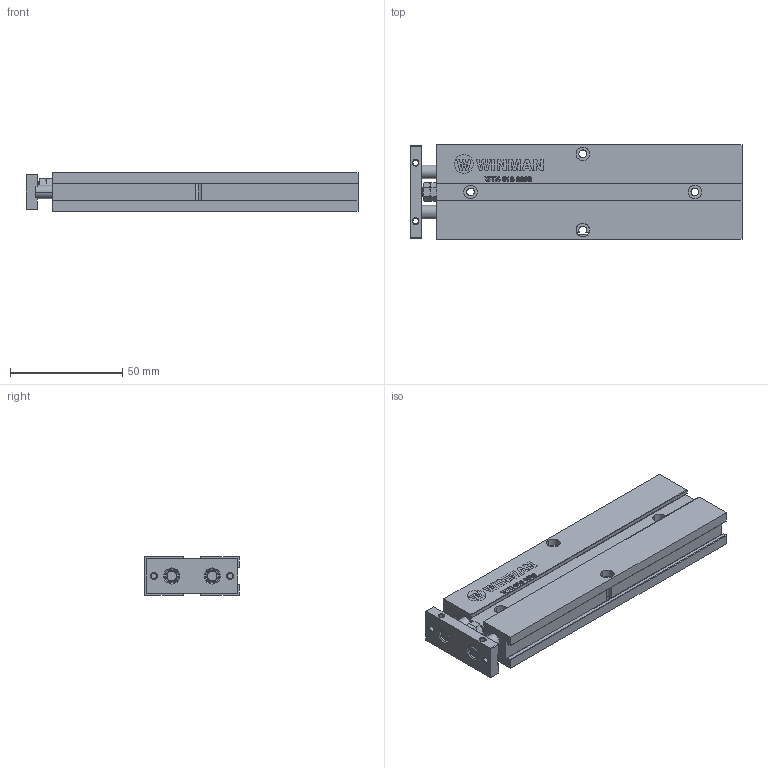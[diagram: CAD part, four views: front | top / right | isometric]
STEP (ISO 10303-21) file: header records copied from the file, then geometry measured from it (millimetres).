
FILE_DESCRIPTION (( 'STEP AP214' ), '1' );
FILE_NAME ('WTN-010-0090 (3D).STEP', '2019-10-30T09:45:04', ( '' ), ( '' ), 'SwSTEP 2.0', 'SolidWorks 2016', '' );
FILE_SCHEMA (( 'AUTOMOTIVE_DESIGN' ));
Length unit declared in the file: millimetre
Products named in the file (3): WTN-010-0090-fp; WTN-010-0090 (3D); WTN-010-0090-b
Assembly tree (2 placements, depth 2):
  WTN-010-0090 (3D)
    WTN-010-0090-b
    WTN-010-0090-fp
Bounding box: 148 x 42 x 17 mm (x, y, z)
Volume: 79370.6 mm3; surface area: 38865 mm2
Topology: 2 solids, 2 shells, 485 faces, 1224 edges, 789 vertices
Faces by surface type: plane 252, cylinder 108, bspline 65, cone 60
Entity records: 21522 total; most frequent: CARTESIAN_POINT 6984, ORIENTED_EDGE 2448, DIRECTION 2180, EDGE_CURVE 1224, VERTEX_POINT 789, LINE 738, VECTOR 738, AXIS2_PLACEMENT_3D 721
